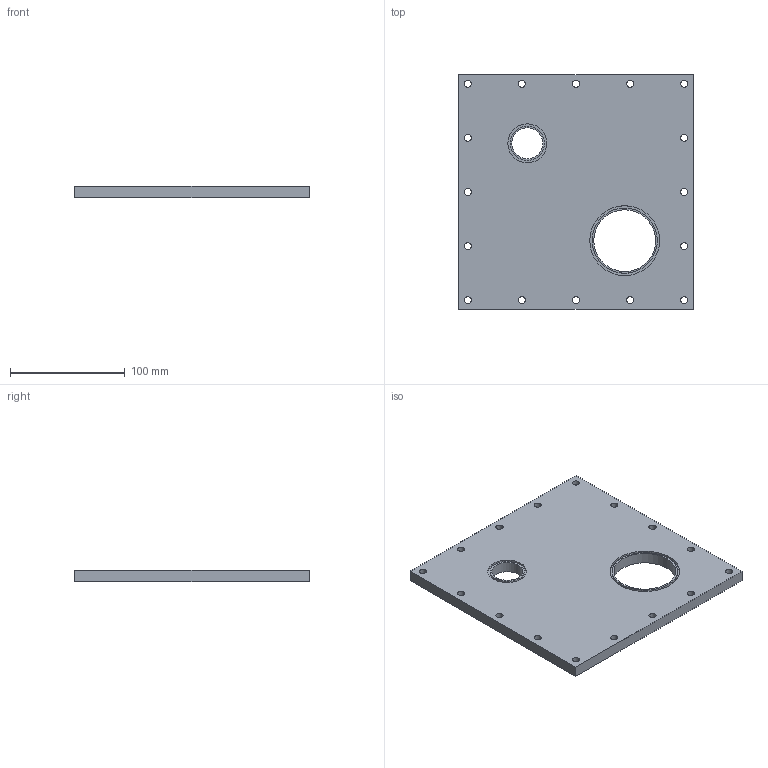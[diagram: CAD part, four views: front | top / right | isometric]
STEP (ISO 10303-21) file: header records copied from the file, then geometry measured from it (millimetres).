
FILE_DESCRIPTION(('FreeCAD Model'),'2;1');
FILE_NAME('Open CASCADE Shape Model','2025-03-27T07:17:53',(''),(''), 'Open CASCADE STEP processor 7.6','FreeCAD','Unknown');
FILE_SCHEMA(('CONFIG_CONTROL_DESIGN','SHAPE_APPEARANCE_LAYER_MIM'));
Length unit declared in the file: millimetre
Products named in the file (1): VacSealCover
Bounding box: 205 x 205 x 10 mm (x, y, z)
Volume: 385648.2 mm3; surface area: 92363 mm2
Topology: 1 solids, 1 shells, 32 faces, 94 edges, 68 vertices
Faces by surface type: cylinder 22, plane 10
Full cylindrical faces by diameter (mm): 6.2 x16, 27 x1, 30 x1, 34 x1, 54 x1, 57 x1, 61 x1
Entity records: 1228 total; most frequent: CARTESIAN_POINT 217, DIRECTION 198, ORIENTED_EDGE 188, EDGE_CURVE 94, AXIS2_PLACEMENT_3D 93, FACE_BOUND 72, EDGE_LOOP 72, VERTEX_POINT 68
